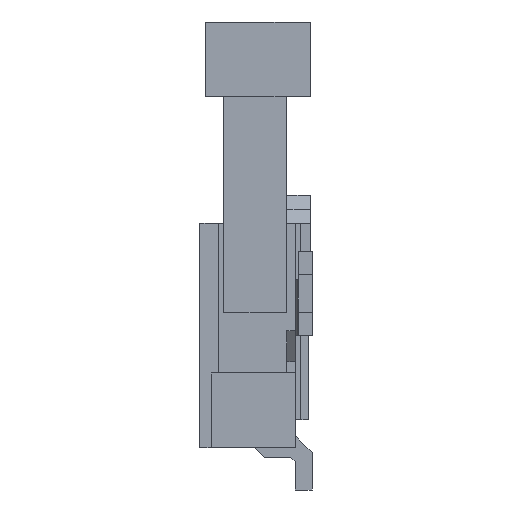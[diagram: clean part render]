
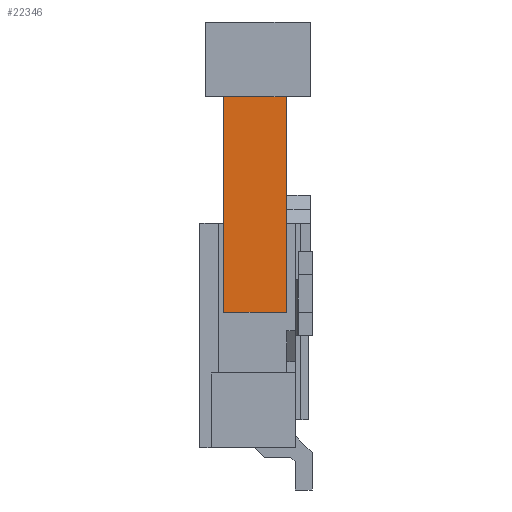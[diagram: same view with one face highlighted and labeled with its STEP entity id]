
A CAD part, left-side view. The second image highlights one B-rep face of the part: STEP entity #22346.
In plain terms, the highlighted planar face has unit normal (-1, 0, 0).
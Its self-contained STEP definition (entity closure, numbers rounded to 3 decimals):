
#3555=DIRECTION('',(0.,-1.,0.));
#3556=VECTOR('',#3555,0.67);
#3557=CARTESIAN_POINT('',(-6.5,0.925,1.45));
#3558=LINE('',#3557,#3556);
#3651=DIRECTION('',(0.,0.,-1.));
#3652=VECTOR('',#3651,2.3);
#3653=CARTESIAN_POINT('',(-6.5,0.255,3.75));
#3654=LINE('',#3653,#3652);
#3663=DIRECTION('',(0.,-1.,0.));
#3664=VECTOR('',#3663,0.67);
#3665=CARTESIAN_POINT('',(-6.5,0.925,3.75));
#3666=LINE('',#3665,#3664);
#3667=DIRECTION('',(0.,0.,-1.));
#3668=VECTOR('',#3667,2.3);
#3669=CARTESIAN_POINT('',(-6.5,0.925,3.75));
#3670=LINE('',#3669,#3668);
#14093=CARTESIAN_POINT('',(-6.5,0.925,1.45));
#14094=CARTESIAN_POINT('',(-6.5,0.255,1.45));
#14095=VERTEX_POINT('',#14093);
#14096=VERTEX_POINT('',#14094);
#14098=CARTESIAN_POINT('',(-6.5,0.925,3.75));
#14100=VERTEX_POINT('',#14098);
#14101=CARTESIAN_POINT('',(-6.5,0.255,3.75));
#14102=VERTEX_POINT('',#14101);
#22334=CARTESIAN_POINT('',(-6.5,0.925,4.55));
#22335=DIRECTION('',(-1.,0.,0.));
#22336=DIRECTION('',(0.,-1.,0.));
#22337=AXIS2_PLACEMENT_3D('',#22334,#22335,#22336);
#22338=PLANE('',#22337);
#22339=ORIENTED_EDGE('',*,*,#21147,.T.);
#22340=ORIENTED_EDGE('',*,*,#22326,.T.);
#22341=ORIENTED_EDGE('',*,*,#22185,.F.);
#22343=ORIENTED_EDGE('',*,*,#22342,.F.);
#22344=EDGE_LOOP('',(#22339,#22340,#22341,#22343));
#22345=FACE_OUTER_BOUND('',#22344,.F.);
#22346=ADVANCED_FACE('',(#22345),#22338,.T.);
#21147=EDGE_CURVE('',#14100,#14102,#3666,.T.);
#22185=EDGE_CURVE('',#14095,#14096,#3558,.T.);
#22326=EDGE_CURVE('',#14102,#14096,#3654,.T.);
#22342=EDGE_CURVE('',#14100,#14095,#3670,.T.);
